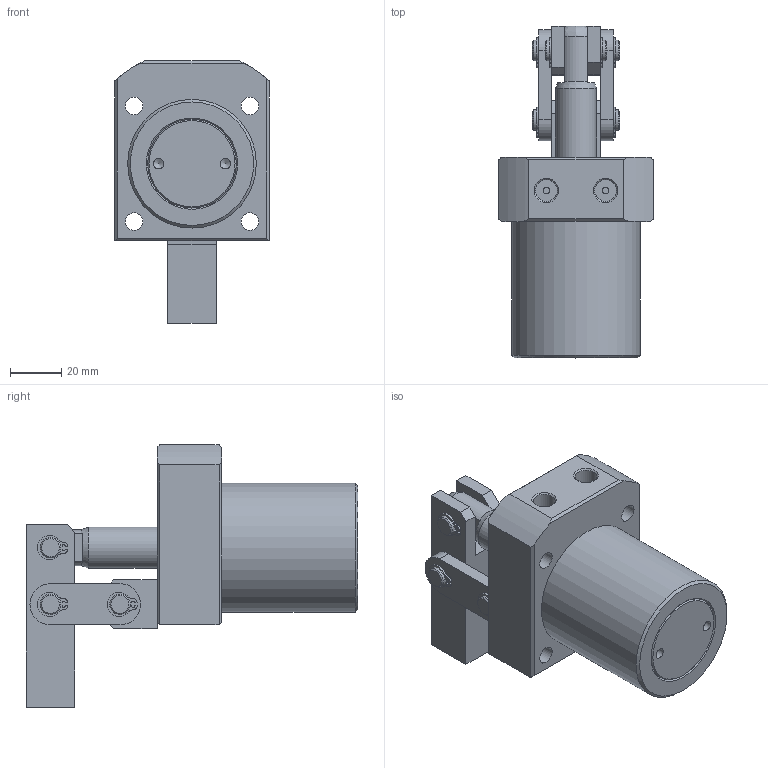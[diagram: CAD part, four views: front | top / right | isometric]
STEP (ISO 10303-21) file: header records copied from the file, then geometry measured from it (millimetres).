
FILE_DESCRIPTION(/* description */ (''),/* implementation_level */ '2;1');
FILE_NAME(/* name */ 'KGG-SG32.stp',/* time_stamp */ '2016-07-19T14:21:46+08:00',/* author */ (''),/* organization */ (''),/* preprocessor_version */ 'ST-DEVELOPER v14',/* originating_system */ 'SIEMENS PLM Software NX 8.0',/* authorisation */ '');
FILE_SCHEMA (('CONFIG_CONTROL_DESIGN'));
Length unit declared in the file: millimetre
Products named in the file (1): KGG-SG32_stp
Bounding box: 60 x 129 x 102 mm (x, y, z)
Volume: 245002.3 mm3; surface area: 41665.1 mm2
Topology: 14 solids, 14 shells, 213 faces, 494 edges, 327 vertices
Faces by surface type: plane 118, cylinder 80, cone 14, bspline 1
Full cylindrical faces by diameter (mm): 2.5 x2, 4 x2, 6.8 x4, 8 x6, 8.5 x2, 11 x4, 16 x2, 19.4 x1, 50 x1
Entity records: 5909 total; most frequent: DIRECTION 1048, CARTESIAN_POINT 1029, ORIENTED_EDGE 886, EDGE_CURVE 443, AXIS2_PLACEMENT_3D 398, VERTEX_POINT 315, EDGE_LOOP 278, LINE 252
